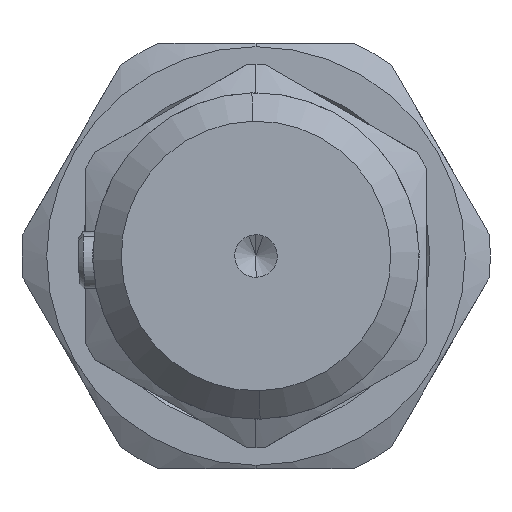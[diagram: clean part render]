
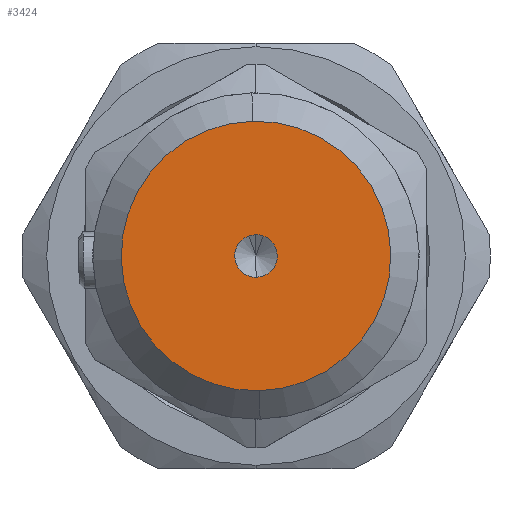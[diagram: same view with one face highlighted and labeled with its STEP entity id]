
A CAD part, left-side view. The second image highlights one B-rep face of the part: STEP entity #3424.
In plain terms, the highlighted planar face has unit normal (-1, 0, 0).
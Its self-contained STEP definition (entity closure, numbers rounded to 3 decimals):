
#540 = EDGE_LOOP ( 'NONE', ( #2056, #3473 ) ) ;
#667 = CARTESIAN_POINT ( 'NONE',  ( -71.5, 0.038, 1.5 ) ) ;
#1422 = FACE_OUTER_BOUND ( 'NONE', #10214, .T. ) ;
#1594 = DIRECTION ( 'NONE',  ( 1., 0., 0. ) ) ;
#1756 = FACE_BOUND ( 'NONE', #540, .T. ) ;
#2056 = ORIENTED_EDGE ( 'NONE', *, *, #11805, .T. ) ;
#2276 = CARTESIAN_POINT ( 'NONE',  ( -71.5, 0., 0. ) ) ;
#2971 = CIRCLE ( 'NONE', #8203, 9.5 ) ;
#2996 = ORIENTED_EDGE ( 'NONE', *, *, #6515, .T. ) ;
#3102 = AXIS2_PLACEMENT_3D ( 'NONE', #2276, #9592, #3333 ) ;
#3333 = DIRECTION ( 'NONE',  ( 0., -0.025, -1. ) ) ;
#3424 = ADVANCED_FACE ( 'NONE', ( #1422, #1756 ), #6765, .F. ) ;
#3467 = VERTEX_POINT ( 'NONE', #667 ) ;
#3473 = ORIENTED_EDGE ( 'NONE', *, *, #6097, .T. ) ;
#3627 = CIRCLE ( 'NONE', #3102, 1.5 ) ;
#4192 = DIRECTION ( 'NONE',  ( -1., 0., 0. ) ) ;
#4430 = ORIENTED_EDGE ( 'NONE', *, *, #10940, .T. ) ;
#4729 = CARTESIAN_POINT ( 'NONE',  ( -71.5, -0.038, -1.5 ) ) ;
#5241 = CARTESIAN_POINT ( 'NONE',  ( -71.5, 0., 0. ) ) ;
#5440 = CIRCLE ( 'NONE', #13383, 9.5 ) ;
#5769 = CARTESIAN_POINT ( 'NONE',  ( -71.5, 0., 0. ) ) ;
#6097 = EDGE_CURVE ( 'NONE', #3467, #8659, #3627, .T. ) ;
#6296 = DIRECTION ( 'NONE',  ( 0., -0.025, -1. ) ) ;
#6515 = EDGE_CURVE ( 'NONE', #12733, #12122, #2971, .T. ) ;
#6765 = PLANE ( 'NONE',  #11111 ) ;
#6826 = DIRECTION ( 'NONE',  ( 0., -0.025, -1. ) ) ;
#6996 = CARTESIAN_POINT ( 'NONE',  ( -71.5, -0.238, -9.497 ) ) ;
#7861 = CARTESIAN_POINT ( 'NONE',  ( -71.5, 0., 0. ) ) ;
#8203 = AXIS2_PLACEMENT_3D ( 'NONE', #5241, #12560, #6296 ) ;
#8659 = VERTEX_POINT ( 'NONE', #4729 ) ;
#8897 = DIRECTION ( 'NONE',  ( 0., -0.025, -1. ) ) ;
#9592 = DIRECTION ( 'NONE',  ( 1., 0., 0. ) ) ;
#10214 = EDGE_LOOP ( 'NONE', ( #4430, #2996 ) ) ;
#10386 = AXIS2_PLACEMENT_3D ( 'NONE', #5769, #13087, #6826 ) ;
#10438 = CARTESIAN_POINT ( 'NONE',  ( -71.5, 0., 0. ) ) ;
#10940 = EDGE_CURVE ( 'NONE', #12122, #12733, #5440, .T. ) ;
#11111 = AXIS2_PLACEMENT_3D ( 'NONE', #7861, #1594, #8897 ) ;
#11487 = DIRECTION ( 'NONE',  ( 0., -0.025, -1. ) ) ;
#11588 = CIRCLE ( 'NONE', #10386, 1.5 ) ;
#11805 = EDGE_CURVE ( 'NONE', #8659, #3467, #11588, .T. ) ;
#12122 = VERTEX_POINT ( 'NONE', #6996 ) ;
#12560 = DIRECTION ( 'NONE',  ( -1., 0., 0. ) ) ;
#12733 = VERTEX_POINT ( 'NONE', #13399 ) ;
#13087 = DIRECTION ( 'NONE',  ( 1., 0., 0. ) ) ;
#13383 = AXIS2_PLACEMENT_3D ( 'NONE', #10438, #4192, #11487 ) ;
#13399 = CARTESIAN_POINT ( 'NONE',  ( -71.5, 0.238, 9.497 ) ) ;
